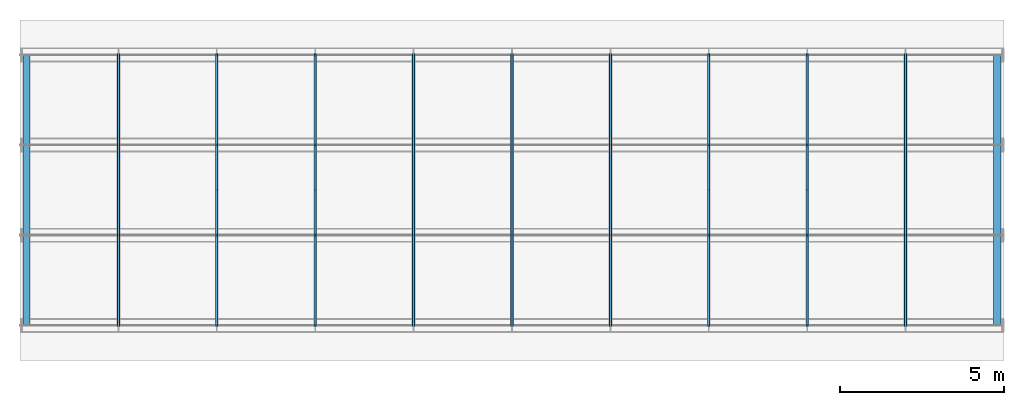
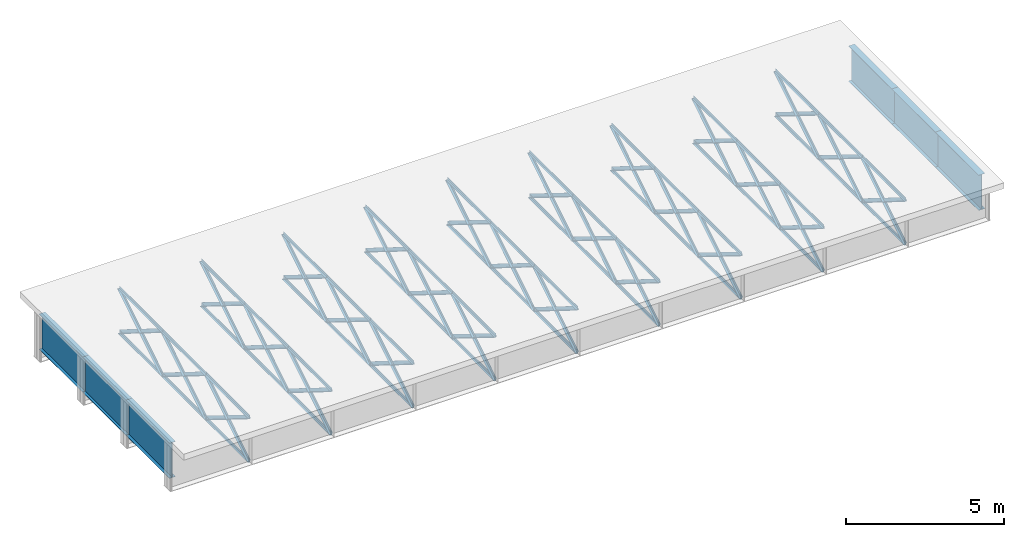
# One storey, part 1 of 11: 114 members.
"""IFC4 building model written with IfcOpenShell, lengths in metres."""

from ifc_helpers import new_model, si_unit, frame, origin, origin_with_axes, origin_2d_with_axis, place, context, subcontext, project, spatial, i_section, l_section, extrude, element, save


model = new_model("IFC4")

# Units and contexts
model_context = context("Model", 3, precision=1e-05, world=origin())
body_context = subcontext(model_context, "Body", "Model", "MODEL_VIEW")
ifc_project = project(units=[si_unit("LENGTHUNIT", "METRE"), si_unit("AREAUNIT", "SQUARE_METRE"), si_unit("VOLUMEUNIT", "CUBIC_METRE"), si_unit("PLANEANGLEUNIT", "RADIAN")], contexts=[model_context])

# Site, building, storey
site_placement = place(None, origin_with_axes())
site = spatial("IfcSite", under=ifc_project, at=site_placement, Name="Default Site")
building_placement = place(site_placement, origin_with_axes())
building = spatial("IfcBuilding", under=site, at=building_placement, Name="Bridge Structure")
storey_placement = place(building_placement, origin_with_axes())
storey = spatial("IfcBuildingStorey", under=building, at=storey_placement, Name="Superstructure")

# Members
for number, where, z_axis, x_axis, name in (
    (1, (0.2, -4.125, 0.171), (0.0, 1.0, 0.0), (-1.0, 0.0, 0.0), "End Diaphragm"),
    (2, (0.2, -1.375, 0.171), (0.0, 1.0, 0.0), (-1.0, 0.0, 0.0), "End Diaphragm"),
    (3, (0.2, 1.375, 0.171), (0.0, 1.0, 0.0), (-1.0, 0.0, 0.0), "End Diaphragm"),
):
    element("IfcMember", number, at=place(storey_placement, frame(where, z_axis=z_axis, x_axis=x_axis)), inside=storey, Name=name, context=body_context, shape_type="SweptSolid", body=[
        extrude(i_section(OverallWidth=0.225, OverallDepth=1.368, WebThickness=0.018000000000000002, FlangeThickness=0.012, at=origin_2d_with_axis()), origin_with_axes(), (0.0, 0.0, 1.0), 2.75),
    ])
for number, where, z_axis, x_axis, name in (
    (4, (3.0, -4.125, 0.855), (0.0, 0.8492104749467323, -0.5280545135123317), (-1.0, 0.0, 0.0), "Diagonal Brace"),
    (5, (3.0, -4.125, -0.855), (0.0, 0.8492104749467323, 0.5280545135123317), (-1.0, 0.0, 0.0), "Diagonal Brace"),
):
    element("IfcMember", number, at=place(storey_placement, frame(where, z_axis=z_axis, x_axis=x_axis)), inside=storey, Name=name, context=body_context, shape_type="SweptSolid", body=[
        extrude(l_section(Depth=0.128, Width=0.085, Thickness=0.008, at=origin_2d_with_axis()), origin_with_axes(), (0.0, 0.0, 1.0), 3.2383020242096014),
    ])
for number, where, z_axis, x_axis, name in (
    (6, (3.0, -4.125, -0.855), (0.0, 1.0, 0.0), (-1.0, 0.0, 0.0), "Bottom Chord"),
    (7, (3.0, -4.125, 0.855), (0.0, 1.0, 0.0), (-1.0, 0.0, 0.0), "Top Chord"),
):
    element("IfcMember", number, at=place(storey_placement, frame(where, z_axis=z_axis, x_axis=x_axis)), inside=storey, Name=name, context=body_context, shape_type="SweptSolid", body=[
        extrude(l_section(Depth=0.111, Width=0.068, Thickness=0.008, at=origin_2d_with_axis()), origin_with_axes(), (0.0, 0.0, 1.0), 2.75),
    ])
for number, where, z_axis, x_axis, name in (
    (8, (3.0, -1.375, 0.855), (0.0, 0.8492104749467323, -0.5280545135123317), (-1.0, 0.0, 0.0), "Diagonal Brace"),
    (9, (3.0, -1.375, -0.855), (0.0, 0.8492104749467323, 0.5280545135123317), (-1.0, 0.0, 0.0), "Diagonal Brace"),
):
    element("IfcMember", number, at=place(storey_placement, frame(where, z_axis=z_axis, x_axis=x_axis)), inside=storey, Name=name, context=body_context, shape_type="SweptSolid", body=[
        extrude(l_section(Depth=0.128, Width=0.085, Thickness=0.008, at=origin_2d_with_axis()), origin_with_axes(), (0.0, 0.0, 1.0), 3.2383020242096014),
    ])
for number, where, z_axis, x_axis, name in (
    (10, (3.0, -1.375, -0.855), (0.0, 1.0, 0.0), (-1.0, 0.0, 0.0), "Bottom Chord"),
    (11, (3.0, -1.375, 0.855), (0.0, 1.0, 0.0), (-1.0, 0.0, 0.0), "Top Chord"),
):
    element("IfcMember", number, at=place(storey_placement, frame(where, z_axis=z_axis, x_axis=x_axis)), inside=storey, Name=name, context=body_context, shape_type="SweptSolid", body=[
        extrude(l_section(Depth=0.111, Width=0.068, Thickness=0.008, at=origin_2d_with_axis()), origin_with_axes(), (0.0, 0.0, 1.0), 2.75),
    ])
for number, where, z_axis, x_axis, name in (
    (12, (3.0, 1.375, 0.855), (0.0, 0.8492104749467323, -0.5280545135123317), (-1.0, 0.0, 0.0), "Diagonal Brace"),
    (13, (3.0, 1.375, -0.855), (0.0, 0.8492104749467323, 0.5280545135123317), (-1.0, 0.0, 0.0), "Diagonal Brace"),
):
    element("IfcMember", number, at=place(storey_placement, frame(where, z_axis=z_axis, x_axis=x_axis)), inside=storey, Name=name, context=body_context, shape_type="SweptSolid", body=[
        extrude(l_section(Depth=0.128, Width=0.085, Thickness=0.008, at=origin_2d_with_axis()), origin_with_axes(), (0.0, 0.0, 1.0), 3.2383020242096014),
    ])
for number, where, z_axis, x_axis, name in (
    (14, (3.0, 1.375, -0.855), (0.0, 1.0, 0.0), (-1.0, 0.0, 0.0), "Bottom Chord"),
    (15, (3.0, 1.375, 0.855), (0.0, 1.0, 0.0), (-1.0, 0.0, 0.0), "Top Chord"),
):
    element("IfcMember", number, at=place(storey_placement, frame(where, z_axis=z_axis, x_axis=x_axis)), inside=storey, Name=name, context=body_context, shape_type="SweptSolid", body=[
        extrude(l_section(Depth=0.111, Width=0.068, Thickness=0.008, at=origin_2d_with_axis()), origin_with_axes(), (0.0, 0.0, 1.0), 2.75),
    ])
for number, where, z_axis, x_axis, name in (
    (16, (6.0, -4.125, 0.855), (0.0, 0.8492104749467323, -0.5280545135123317), (-1.0, 0.0, 0.0), "Diagonal Brace"),
    (17, (6.0, -4.125, -0.855), (0.0, 0.8492104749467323, 0.5280545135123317), (-1.0, 0.0, 0.0), "Diagonal Brace"),
):
    element("IfcMember", number, at=place(storey_placement, frame(where, z_axis=z_axis, x_axis=x_axis)), inside=storey, Name=name, context=body_context, shape_type="SweptSolid", body=[
        extrude(l_section(Depth=0.128, Width=0.085, Thickness=0.008, at=origin_2d_with_axis()), origin_with_axes(), (0.0, 0.0, 1.0), 3.2383020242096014),
    ])
for number, where, z_axis, x_axis, name in (
    (18, (6.0, -4.125, -0.855), (0.0, 1.0, 0.0), (-1.0, 0.0, 0.0), "Bottom Chord"),
    (19, (6.0, -4.125, 0.855), (0.0, 1.0, 0.0), (-1.0, 0.0, 0.0), "Top Chord"),
):
    element("IfcMember", number, at=place(storey_placement, frame(where, z_axis=z_axis, x_axis=x_axis)), inside=storey, Name=name, context=body_context, shape_type="SweptSolid", body=[
        extrude(l_section(Depth=0.111, Width=0.068, Thickness=0.008, at=origin_2d_with_axis()), origin_with_axes(), (0.0, 0.0, 1.0), 2.75),
    ])
for number, where, z_axis, x_axis, name in (
    (20, (6.0, -1.375, 0.855), (0.0, 0.8492104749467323, -0.5280545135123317), (-1.0, 0.0, 0.0), "Diagonal Brace"),
    (21, (6.0, -1.375, -0.855), (0.0, 0.8492104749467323, 0.5280545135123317), (-1.0, 0.0, 0.0), "Diagonal Brace"),
):
    element("IfcMember", number, at=place(storey_placement, frame(where, z_axis=z_axis, x_axis=x_axis)), inside=storey, Name=name, context=body_context, shape_type="SweptSolid", body=[
        extrude(l_section(Depth=0.128, Width=0.085, Thickness=0.008, at=origin_2d_with_axis()), origin_with_axes(), (0.0, 0.0, 1.0), 3.2383020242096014),
    ])
for number, where, z_axis, x_axis, name in (
    (22, (6.0, -1.375, -0.855), (0.0, 1.0, 0.0), (-1.0, 0.0, 0.0), "Bottom Chord"),
    (23, (6.0, -1.375, 0.855), (0.0, 1.0, 0.0), (-1.0, 0.0, 0.0), "Top Chord"),
):
    element("IfcMember", number, at=place(storey_placement, frame(where, z_axis=z_axis, x_axis=x_axis)), inside=storey, Name=name, context=body_context, shape_type="SweptSolid", body=[
        extrude(l_section(Depth=0.111, Width=0.068, Thickness=0.008, at=origin_2d_with_axis()), origin_with_axes(), (0.0, 0.0, 1.0), 2.75),
    ])
for number, where, z_axis, x_axis, name in (
    (24, (6.0, 1.375, 0.855), (0.0, 0.8492104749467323, -0.5280545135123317), (-1.0, 0.0, 0.0), "Diagonal Brace"),
    (25, (6.0, 1.375, -0.855), (0.0, 0.8492104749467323, 0.5280545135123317), (-1.0, 0.0, 0.0), "Diagonal Brace"),
):
    element("IfcMember", number, at=place(storey_placement, frame(where, z_axis=z_axis, x_axis=x_axis)), inside=storey, Name=name, context=body_context, shape_type="SweptSolid", body=[
        extrude(l_section(Depth=0.128, Width=0.085, Thickness=0.008, at=origin_2d_with_axis()), origin_with_axes(), (0.0, 0.0, 1.0), 3.2383020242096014),
    ])
for number, where, z_axis, x_axis, name in (
    (26, (6.0, 1.375, -0.855), (0.0, 1.0, 0.0), (-1.0, 0.0, 0.0), "Bottom Chord"),
    (27, (6.0, 1.375, 0.855), (0.0, 1.0, 0.0), (-1.0, 0.0, 0.0), "Top Chord"),
):
    element("IfcMember", number, at=place(storey_placement, frame(where, z_axis=z_axis, x_axis=x_axis)), inside=storey, Name=name, context=body_context, shape_type="SweptSolid", body=[
        extrude(l_section(Depth=0.111, Width=0.068, Thickness=0.008, at=origin_2d_with_axis()), origin_with_axes(), (0.0, 0.0, 1.0), 2.75),
    ])
for number, where, z_axis, x_axis, name in (
    (28, (9.0, -4.125, 0.855), (0.0, 0.8492104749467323, -0.5280545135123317), (-1.0, 0.0, 0.0), "Diagonal Brace"),
    (29, (9.0, -4.125, -0.855), (0.0, 0.8492104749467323, 0.5280545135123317), (-1.0, 0.0, 0.0), "Diagonal Brace"),
):
    element("IfcMember", number, at=place(storey_placement, frame(where, z_axis=z_axis, x_axis=x_axis)), inside=storey, Name=name, context=body_context, shape_type="SweptSolid", body=[
        extrude(l_section(Depth=0.128, Width=0.085, Thickness=0.008, at=origin_2d_with_axis()), origin_with_axes(), (0.0, 0.0, 1.0), 3.2383020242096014),
    ])
for number, where, z_axis, x_axis, name in (
    (30, (9.0, -4.125, -0.855), (0.0, 1.0, 0.0), (-1.0, 0.0, 0.0), "Bottom Chord"),
    (31, (9.0, -4.125, 0.855), (0.0, 1.0, 0.0), (-1.0, 0.0, 0.0), "Top Chord"),
):
    element("IfcMember", number, at=place(storey_placement, frame(where, z_axis=z_axis, x_axis=x_axis)), inside=storey, Name=name, context=body_context, shape_type="SweptSolid", body=[
        extrude(l_section(Depth=0.111, Width=0.068, Thickness=0.008, at=origin_2d_with_axis()), origin_with_axes(), (0.0, 0.0, 1.0), 2.75),
    ])
for number, where, z_axis, x_axis, name in (
    (32, (9.0, -1.375, 0.855), (0.0, 0.8492104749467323, -0.5280545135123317), (-1.0, 0.0, 0.0), "Diagonal Brace"),
    (33, (9.0, -1.375, -0.855), (0.0, 0.8492104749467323, 0.5280545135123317), (-1.0, 0.0, 0.0), "Diagonal Brace"),
):
    element("IfcMember", number, at=place(storey_placement, frame(where, z_axis=z_axis, x_axis=x_axis)), inside=storey, Name=name, context=body_context, shape_type="SweptSolid", body=[
        extrude(l_section(Depth=0.128, Width=0.085, Thickness=0.008, at=origin_2d_with_axis()), origin_with_axes(), (0.0, 0.0, 1.0), 3.2383020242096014),
    ])
for number, where, z_axis, x_axis, name in (
    (34, (9.0, -1.375, -0.855), (0.0, 1.0, 0.0), (-1.0, 0.0, 0.0), "Bottom Chord"),
    (35, (9.0, -1.375, 0.855), (0.0, 1.0, 0.0), (-1.0, 0.0, 0.0), "Top Chord"),
):
    element("IfcMember", number, at=place(storey_placement, frame(where, z_axis=z_axis, x_axis=x_axis)), inside=storey, Name=name, context=body_context, shape_type="SweptSolid", body=[
        extrude(l_section(Depth=0.111, Width=0.068, Thickness=0.008, at=origin_2d_with_axis()), origin_with_axes(), (0.0, 0.0, 1.0), 2.75),
    ])
for number, where, z_axis, x_axis, name in (
    (36, (9.0, 1.375, 0.855), (0.0, 0.8492104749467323, -0.5280545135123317), (-1.0, 0.0, 0.0), "Diagonal Brace"),
    (37, (9.0, 1.375, -0.855), (0.0, 0.8492104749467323, 0.5280545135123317), (-1.0, 0.0, 0.0), "Diagonal Brace"),
):
    element("IfcMember", number, at=place(storey_placement, frame(where, z_axis=z_axis, x_axis=x_axis)), inside=storey, Name=name, context=body_context, shape_type="SweptSolid", body=[
        extrude(l_section(Depth=0.128, Width=0.085, Thickness=0.008, at=origin_2d_with_axis()), origin_with_axes(), (0.0, 0.0, 1.0), 3.2383020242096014),
    ])
for number, where, z_axis, x_axis, name in (
    (38, (9.0, 1.375, -0.855), (0.0, 1.0, 0.0), (-1.0, 0.0, 0.0), "Bottom Chord"),
    (39, (9.0, 1.375, 0.855), (0.0, 1.0, 0.0), (-1.0, 0.0, 0.0), "Top Chord"),
):
    element("IfcMember", number, at=place(storey_placement, frame(where, z_axis=z_axis, x_axis=x_axis)), inside=storey, Name=name, context=body_context, shape_type="SweptSolid", body=[
        extrude(l_section(Depth=0.111, Width=0.068, Thickness=0.008, at=origin_2d_with_axis()), origin_with_axes(), (0.0, 0.0, 1.0), 2.75),
    ])
for number, where, z_axis, x_axis, name in (
    (40, (12.0, -4.125, 0.855), (0.0, 0.8492104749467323, -0.5280545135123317), (-1.0, 0.0, 0.0), "Diagonal Brace"),
    (41, (12.0, -4.125, -0.855), (0.0, 0.8492104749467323, 0.5280545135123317), (-1.0, 0.0, 0.0), "Diagonal Brace"),
):
    element("IfcMember", number, at=place(storey_placement, frame(where, z_axis=z_axis, x_axis=x_axis)), inside=storey, Name=name, context=body_context, shape_type="SweptSolid", body=[
        extrude(l_section(Depth=0.128, Width=0.085, Thickness=0.008, at=origin_2d_with_axis()), origin_with_axes(), (0.0, 0.0, 1.0), 3.2383020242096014),
    ])
for number, where, z_axis, x_axis, name in (
    (42, (12.0, -4.125, -0.855), (0.0, 1.0, 0.0), (-1.0, 0.0, 0.0), "Bottom Chord"),
    (43, (12.0, -4.125, 0.855), (0.0, 1.0, 0.0), (-1.0, 0.0, 0.0), "Top Chord"),
):
    element("IfcMember", number, at=place(storey_placement, frame(where, z_axis=z_axis, x_axis=x_axis)), inside=storey, Name=name, context=body_context, shape_type="SweptSolid", body=[
        extrude(l_section(Depth=0.111, Width=0.068, Thickness=0.008, at=origin_2d_with_axis()), origin_with_axes(), (0.0, 0.0, 1.0), 2.75),
    ])
for number, where, z_axis, x_axis, name in (
    (44, (12.0, -1.375, 0.855), (0.0, 0.8492104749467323, -0.5280545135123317), (-1.0, 0.0, 0.0), "Diagonal Brace"),
    (45, (12.0, -1.375, -0.855), (0.0, 0.8492104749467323, 0.5280545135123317), (-1.0, 0.0, 0.0), "Diagonal Brace"),
):
    element("IfcMember", number, at=place(storey_placement, frame(where, z_axis=z_axis, x_axis=x_axis)), inside=storey, Name=name, context=body_context, shape_type="SweptSolid", body=[
        extrude(l_section(Depth=0.128, Width=0.085, Thickness=0.008, at=origin_2d_with_axis()), origin_with_axes(), (0.0, 0.0, 1.0), 3.2383020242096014),
    ])
for number, where, z_axis, x_axis, name in (
    (46, (12.0, -1.375, -0.855), (0.0, 1.0, 0.0), (-1.0, 0.0, 0.0), "Bottom Chord"),
    (47, (12.0, -1.375, 0.855), (0.0, 1.0, 0.0), (-1.0, 0.0, 0.0), "Top Chord"),
):
    element("IfcMember", number, at=place(storey_placement, frame(where, z_axis=z_axis, x_axis=x_axis)), inside=storey, Name=name, context=body_context, shape_type="SweptSolid", body=[
        extrude(l_section(Depth=0.111, Width=0.068, Thickness=0.008, at=origin_2d_with_axis()), origin_with_axes(), (0.0, 0.0, 1.0), 2.75),
    ])
for number, where, z_axis, x_axis, name in (
    (48, (12.0, 1.375, 0.855), (0.0, 0.8492104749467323, -0.5280545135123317), (-1.0, 0.0, 0.0), "Diagonal Brace"),
    (49, (12.0, 1.375, -0.855), (0.0, 0.8492104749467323, 0.5280545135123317), (-1.0, 0.0, 0.0), "Diagonal Brace"),
):
    element("IfcMember", number, at=place(storey_placement, frame(where, z_axis=z_axis, x_axis=x_axis)), inside=storey, Name=name, context=body_context, shape_type="SweptSolid", body=[
        extrude(l_section(Depth=0.128, Width=0.085, Thickness=0.008, at=origin_2d_with_axis()), origin_with_axes(), (0.0, 0.0, 1.0), 3.2383020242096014),
    ])
for number, where, z_axis, x_axis, name in (
    (50, (12.0, 1.375, -0.855), (0.0, 1.0, 0.0), (-1.0, 0.0, 0.0), "Bottom Chord"),
    (51, (12.0, 1.375, 0.855), (0.0, 1.0, 0.0), (-1.0, 0.0, 0.0), "Top Chord"),
):
    element("IfcMember", number, at=place(storey_placement, frame(where, z_axis=z_axis, x_axis=x_axis)), inside=storey, Name=name, context=body_context, shape_type="SweptSolid", body=[
        extrude(l_section(Depth=0.111, Width=0.068, Thickness=0.008, at=origin_2d_with_axis()), origin_with_axes(), (0.0, 0.0, 1.0), 2.75),
    ])
for number, where, z_axis, x_axis, name in (
    (52, (15.0, -4.125, 0.855), (0.0, 0.8492104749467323, -0.5280545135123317), (-1.0, 0.0, 0.0), "Diagonal Brace"),
    (53, (15.0, -4.125, -0.855), (0.0, 0.8492104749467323, 0.5280545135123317), (-1.0, 0.0, 0.0), "Diagonal Brace"),
):
    element("IfcMember", number, at=place(storey_placement, frame(where, z_axis=z_axis, x_axis=x_axis)), inside=storey, Name=name, context=body_context, shape_type="SweptSolid", body=[
        extrude(l_section(Depth=0.128, Width=0.085, Thickness=0.008, at=origin_2d_with_axis()), origin_with_axes(), (0.0, 0.0, 1.0), 3.2383020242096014),
    ])
for number, where, z_axis, x_axis, name in (
    (54, (15.0, -4.125, -0.855), (0.0, 1.0, 0.0), (-1.0, 0.0, 0.0), "Bottom Chord"),
    (55, (15.0, -4.125, 0.855), (0.0, 1.0, 0.0), (-1.0, 0.0, 0.0), "Top Chord"),
):
    element("IfcMember", number, at=place(storey_placement, frame(where, z_axis=z_axis, x_axis=x_axis)), inside=storey, Name=name, context=body_context, shape_type="SweptSolid", body=[
        extrude(l_section(Depth=0.111, Width=0.068, Thickness=0.008, at=origin_2d_with_axis()), origin_with_axes(), (0.0, 0.0, 1.0), 2.75),
    ])
for number, where, z_axis, x_axis, name in (
    (56, (15.0, -1.375, 0.855), (0.0, 0.8492104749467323, -0.5280545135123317), (-1.0, 0.0, 0.0), "Diagonal Brace"),
    (57, (15.0, -1.375, -0.855), (0.0, 0.8492104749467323, 0.5280545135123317), (-1.0, 0.0, 0.0), "Diagonal Brace"),
):
    element("IfcMember", number, at=place(storey_placement, frame(where, z_axis=z_axis, x_axis=x_axis)), inside=storey, Name=name, context=body_context, shape_type="SweptSolid", body=[
        extrude(l_section(Depth=0.128, Width=0.085, Thickness=0.008, at=origin_2d_with_axis()), origin_with_axes(), (0.0, 0.0, 1.0), 3.2383020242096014),
    ])
for number, where, z_axis, x_axis, name in (
    (58, (15.0, -1.375, -0.855), (0.0, 1.0, 0.0), (-1.0, 0.0, 0.0), "Bottom Chord"),
    (59, (15.0, -1.375, 0.855), (0.0, 1.0, 0.0), (-1.0, 0.0, 0.0), "Top Chord"),
):
    element("IfcMember", number, at=place(storey_placement, frame(where, z_axis=z_axis, x_axis=x_axis)), inside=storey, Name=name, context=body_context, shape_type="SweptSolid", body=[
        extrude(l_section(Depth=0.111, Width=0.068, Thickness=0.008, at=origin_2d_with_axis()), origin_with_axes(), (0.0, 0.0, 1.0), 2.75),
    ])
for number, where, z_axis, x_axis, name in (
    (60, (15.0, 1.375, 0.855), (0.0, 0.8492104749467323, -0.5280545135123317), (-1.0, 0.0, 0.0), "Diagonal Brace"),
    (61, (15.0, 1.375, -0.855), (0.0, 0.8492104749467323, 0.5280545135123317), (-1.0, 0.0, 0.0), "Diagonal Brace"),
):
    element("IfcMember", number, at=place(storey_placement, frame(where, z_axis=z_axis, x_axis=x_axis)), inside=storey, Name=name, context=body_context, shape_type="SweptSolid", body=[
        extrude(l_section(Depth=0.128, Width=0.085, Thickness=0.008, at=origin_2d_with_axis()), origin_with_axes(), (0.0, 0.0, 1.0), 3.2383020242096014),
    ])
for number, where, z_axis, x_axis, name in (
    (62, (15.0, 1.375, -0.855), (0.0, 1.0, 0.0), (-1.0, 0.0, 0.0), "Bottom Chord"),
    (63, (15.0, 1.375, 0.855), (0.0, 1.0, 0.0), (-1.0, 0.0, 0.0), "Top Chord"),
):
    element("IfcMember", number, at=place(storey_placement, frame(where, z_axis=z_axis, x_axis=x_axis)), inside=storey, Name=name, context=body_context, shape_type="SweptSolid", body=[
        extrude(l_section(Depth=0.111, Width=0.068, Thickness=0.008, at=origin_2d_with_axis()), origin_with_axes(), (0.0, 0.0, 1.0), 2.75),
    ])
for number, where, z_axis, x_axis, name in (
    (64, (18.0, -4.125, 0.855), (0.0, 0.8492104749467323, -0.5280545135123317), (-1.0, 0.0, 0.0), "Diagonal Brace"),
    (65, (18.0, -4.125, -0.855), (0.0, 0.8492104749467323, 0.5280545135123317), (-1.0, 0.0, 0.0), "Diagonal Brace"),
):
    element("IfcMember", number, at=place(storey_placement, frame(where, z_axis=z_axis, x_axis=x_axis)), inside=storey, Name=name, context=body_context, shape_type="SweptSolid", body=[
        extrude(l_section(Depth=0.128, Width=0.085, Thickness=0.008, at=origin_2d_with_axis()), origin_with_axes(), (0.0, 0.0, 1.0), 3.2383020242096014),
    ])
for number, where, z_axis, x_axis, name in (
    (66, (18.0, -4.125, -0.855), (0.0, 1.0, 0.0), (-1.0, 0.0, 0.0), "Bottom Chord"),
    (67, (18.0, -4.125, 0.855), (0.0, 1.0, 0.0), (-1.0, 0.0, 0.0), "Top Chord"),
):
    element("IfcMember", number, at=place(storey_placement, frame(where, z_axis=z_axis, x_axis=x_axis)), inside=storey, Name=name, context=body_context, shape_type="SweptSolid", body=[
        extrude(l_section(Depth=0.111, Width=0.068, Thickness=0.008, at=origin_2d_with_axis()), origin_with_axes(), (0.0, 0.0, 1.0), 2.75),
    ])
for number, where, z_axis, x_axis, name in (
    (68, (18.0, -1.375, 0.855), (0.0, 0.8492104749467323, -0.5280545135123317), (-1.0, 0.0, 0.0), "Diagonal Brace"),
    (69, (18.0, -1.375, -0.855), (0.0, 0.8492104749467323, 0.5280545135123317), (-1.0, 0.0, 0.0), "Diagonal Brace"),
):
    element("IfcMember", number, at=place(storey_placement, frame(where, z_axis=z_axis, x_axis=x_axis)), inside=storey, Name=name, context=body_context, shape_type="SweptSolid", body=[
        extrude(l_section(Depth=0.128, Width=0.085, Thickness=0.008, at=origin_2d_with_axis()), origin_with_axes(), (0.0, 0.0, 1.0), 3.2383020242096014),
    ])
for number, where, z_axis, x_axis, name in (
    (70, (18.0, -1.375, -0.855), (0.0, 1.0, 0.0), (-1.0, 0.0, 0.0), "Bottom Chord"),
    (71, (18.0, -1.375, 0.855), (0.0, 1.0, 0.0), (-1.0, 0.0, 0.0), "Top Chord"),
):
    element("IfcMember", number, at=place(storey_placement, frame(where, z_axis=z_axis, x_axis=x_axis)), inside=storey, Name=name, context=body_context, shape_type="SweptSolid", body=[
        extrude(l_section(Depth=0.111, Width=0.068, Thickness=0.008, at=origin_2d_with_axis()), origin_with_axes(), (0.0, 0.0, 1.0), 2.75),
    ])
for number, where, z_axis, x_axis, name in (
    (72, (18.0, 1.375, 0.855), (0.0, 0.8492104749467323, -0.5280545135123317), (-1.0, 0.0, 0.0), "Diagonal Brace"),
    (73, (18.0, 1.375, -0.855), (0.0, 0.8492104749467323, 0.5280545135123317), (-1.0, 0.0, 0.0), "Diagonal Brace"),
):
    element("IfcMember", number, at=place(storey_placement, frame(where, z_axis=z_axis, x_axis=x_axis)), inside=storey, Name=name, context=body_context, shape_type="SweptSolid", body=[
        extrude(l_section(Depth=0.128, Width=0.085, Thickness=0.008, at=origin_2d_with_axis()), origin_with_axes(), (0.0, 0.0, 1.0), 3.2383020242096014),
    ])
for number, where, z_axis, x_axis, name in (
    (74, (18.0, 1.375, -0.855), (0.0, 1.0, 0.0), (-1.0, 0.0, 0.0), "Bottom Chord"),
    (75, (18.0, 1.375, 0.855), (0.0, 1.0, 0.0), (-1.0, 0.0, 0.0), "Top Chord"),
):
    element("IfcMember", number, at=place(storey_placement, frame(where, z_axis=z_axis, x_axis=x_axis)), inside=storey, Name=name, context=body_context, shape_type="SweptSolid", body=[
        extrude(l_section(Depth=0.111, Width=0.068, Thickness=0.008, at=origin_2d_with_axis()), origin_with_axes(), (0.0, 0.0, 1.0), 2.75),
    ])
for number, where, z_axis, x_axis, name in (
    (76, (21.0, -4.125, 0.855), (0.0, 0.8492104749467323, -0.5280545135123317), (-1.0, 0.0, 0.0), "Diagonal Brace"),
    (77, (21.0, -4.125, -0.855), (0.0, 0.8492104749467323, 0.5280545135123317), (-1.0, 0.0, 0.0), "Diagonal Brace"),
):
    element("IfcMember", number, at=place(storey_placement, frame(where, z_axis=z_axis, x_axis=x_axis)), inside=storey, Name=name, context=body_context, shape_type="SweptSolid", body=[
        extrude(l_section(Depth=0.128, Width=0.085, Thickness=0.008, at=origin_2d_with_axis()), origin_with_axes(), (0.0, 0.0, 1.0), 3.2383020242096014),
    ])
for number, where, z_axis, x_axis, name in (
    (78, (21.0, -4.125, -0.855), (0.0, 1.0, 0.0), (-1.0, 0.0, 0.0), "Bottom Chord"),
    (79, (21.0, -4.125, 0.855), (0.0, 1.0, 0.0), (-1.0, 0.0, 0.0), "Top Chord"),
):
    element("IfcMember", number, at=place(storey_placement, frame(where, z_axis=z_axis, x_axis=x_axis)), inside=storey, Name=name, context=body_context, shape_type="SweptSolid", body=[
        extrude(l_section(Depth=0.111, Width=0.068, Thickness=0.008, at=origin_2d_with_axis()), origin_with_axes(), (0.0, 0.0, 1.0), 2.75),
    ])
for number, where, z_axis, x_axis, name in (
    (80, (21.0, -1.375, 0.855), (0.0, 0.8492104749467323, -0.5280545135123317), (-1.0, 0.0, 0.0), "Diagonal Brace"),
    (81, (21.0, -1.375, -0.855), (0.0, 0.8492104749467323, 0.5280545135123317), (-1.0, 0.0, 0.0), "Diagonal Brace"),
):
    element("IfcMember", number, at=place(storey_placement, frame(where, z_axis=z_axis, x_axis=x_axis)), inside=storey, Name=name, context=body_context, shape_type="SweptSolid", body=[
        extrude(l_section(Depth=0.128, Width=0.085, Thickness=0.008, at=origin_2d_with_axis()), origin_with_axes(), (0.0, 0.0, 1.0), 3.2383020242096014),
    ])
for number, where, z_axis, x_axis, name in (
    (82, (21.0, -1.375, -0.855), (0.0, 1.0, 0.0), (-1.0, 0.0, 0.0), "Bottom Chord"),
    (83, (21.0, -1.375, 0.855), (0.0, 1.0, 0.0), (-1.0, 0.0, 0.0), "Top Chord"),
):
    element("IfcMember", number, at=place(storey_placement, frame(where, z_axis=z_axis, x_axis=x_axis)), inside=storey, Name=name, context=body_context, shape_type="SweptSolid", body=[
        extrude(l_section(Depth=0.111, Width=0.068, Thickness=0.008, at=origin_2d_with_axis()), origin_with_axes(), (0.0, 0.0, 1.0), 2.75),
    ])
for number, where, z_axis, x_axis, name in (
    (84, (21.0, 1.375, 0.855), (0.0, 0.8492104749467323, -0.5280545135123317), (-1.0, 0.0, 0.0), "Diagonal Brace"),
    (85, (21.0, 1.375, -0.855), (0.0, 0.8492104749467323, 0.5280545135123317), (-1.0, 0.0, 0.0), "Diagonal Brace"),
):
    element("IfcMember", number, at=place(storey_placement, frame(where, z_axis=z_axis, x_axis=x_axis)), inside=storey, Name=name, context=body_context, shape_type="SweptSolid", body=[
        extrude(l_section(Depth=0.128, Width=0.085, Thickness=0.008, at=origin_2d_with_axis()), origin_with_axes(), (0.0, 0.0, 1.0), 3.2383020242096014),
    ])
for number, where, z_axis, x_axis, name in (
    (86, (21.0, 1.375, -0.855), (0.0, 1.0, 0.0), (-1.0, 0.0, 0.0), "Bottom Chord"),
    (87, (21.0, 1.375, 0.855), (0.0, 1.0, 0.0), (-1.0, 0.0, 0.0), "Top Chord"),
):
    element("IfcMember", number, at=place(storey_placement, frame(where, z_axis=z_axis, x_axis=x_axis)), inside=storey, Name=name, context=body_context, shape_type="SweptSolid", body=[
        extrude(l_section(Depth=0.111, Width=0.068, Thickness=0.008, at=origin_2d_with_axis()), origin_with_axes(), (0.0, 0.0, 1.0), 2.75),
    ])
for number, where, z_axis, x_axis, name in (
    (88, (24.0, -4.125, 0.855), (0.0, 0.8492104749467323, -0.5280545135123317), (-1.0, 0.0, 0.0), "Diagonal Brace"),
    (89, (24.0, -4.125, -0.855), (0.0, 0.8492104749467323, 0.5280545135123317), (-1.0, 0.0, 0.0), "Diagonal Brace"),
):
    element("IfcMember", number, at=place(storey_placement, frame(where, z_axis=z_axis, x_axis=x_axis)), inside=storey, Name=name, context=body_context, shape_type="SweptSolid", body=[
        extrude(l_section(Depth=0.128, Width=0.085, Thickness=0.008, at=origin_2d_with_axis()), origin_with_axes(), (0.0, 0.0, 1.0), 3.2383020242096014),
    ])
for number, where, z_axis, x_axis, name in (
    (90, (24.0, -4.125, -0.855), (0.0, 1.0, 0.0), (-1.0, 0.0, 0.0), "Bottom Chord"),
    (91, (24.0, -4.125, 0.855), (0.0, 1.0, 0.0), (-1.0, 0.0, 0.0), "Top Chord"),
):
    element("IfcMember", number, at=place(storey_placement, frame(where, z_axis=z_axis, x_axis=x_axis)), inside=storey, Name=name, context=body_context, shape_type="SweptSolid", body=[
        extrude(l_section(Depth=0.111, Width=0.068, Thickness=0.008, at=origin_2d_with_axis()), origin_with_axes(), (0.0, 0.0, 1.0), 2.75),
    ])
for number, where, z_axis, x_axis, name in (
    (92, (24.0, -1.375, 0.855), (0.0, 0.8492104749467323, -0.5280545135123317), (-1.0, 0.0, 0.0), "Diagonal Brace"),
    (93, (24.0, -1.375, -0.855), (0.0, 0.8492104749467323, 0.5280545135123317), (-1.0, 0.0, 0.0), "Diagonal Brace"),
):
    element("IfcMember", number, at=place(storey_placement, frame(where, z_axis=z_axis, x_axis=x_axis)), inside=storey, Name=name, context=body_context, shape_type="SweptSolid", body=[
        extrude(l_section(Depth=0.128, Width=0.085, Thickness=0.008, at=origin_2d_with_axis()), origin_with_axes(), (0.0, 0.0, 1.0), 3.2383020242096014),
    ])
for number, where, z_axis, x_axis, name in (
    (94, (24.0, -1.375, -0.855), (0.0, 1.0, 0.0), (-1.0, 0.0, 0.0), "Bottom Chord"),
    (95, (24.0, -1.375, 0.855), (0.0, 1.0, 0.0), (-1.0, 0.0, 0.0), "Top Chord"),
):
    element("IfcMember", number, at=place(storey_placement, frame(where, z_axis=z_axis, x_axis=x_axis)), inside=storey, Name=name, context=body_context, shape_type="SweptSolid", body=[
        extrude(l_section(Depth=0.111, Width=0.068, Thickness=0.008, at=origin_2d_with_axis()), origin_with_axes(), (0.0, 0.0, 1.0), 2.75),
    ])
for number, where, z_axis, x_axis, name in (
    (96, (24.0, 1.375, 0.855), (0.0, 0.8492104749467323, -0.5280545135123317), (-1.0, 0.0, 0.0), "Diagonal Brace"),
    (97, (24.0, 1.375, -0.855), (0.0, 0.8492104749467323, 0.5280545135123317), (-1.0, 0.0, 0.0), "Diagonal Brace"),
):
    element("IfcMember", number, at=place(storey_placement, frame(where, z_axis=z_axis, x_axis=x_axis)), inside=storey, Name=name, context=body_context, shape_type="SweptSolid", body=[
        extrude(l_section(Depth=0.128, Width=0.085, Thickness=0.008, at=origin_2d_with_axis()), origin_with_axes(), (0.0, 0.0, 1.0), 3.2383020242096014),
    ])
for number, where, z_axis, x_axis, name in (
    (98, (24.0, 1.375, -0.855), (0.0, 1.0, 0.0), (-1.0, 0.0, 0.0), "Bottom Chord"),
    (99, (24.0, 1.375, 0.855), (0.0, 1.0, 0.0), (-1.0, 0.0, 0.0), "Top Chord"),
):
    element("IfcMember", number, at=place(storey_placement, frame(where, z_axis=z_axis, x_axis=x_axis)), inside=storey, Name=name, context=body_context, shape_type="SweptSolid", body=[
        extrude(l_section(Depth=0.111, Width=0.068, Thickness=0.008, at=origin_2d_with_axis()), origin_with_axes(), (0.0, 0.0, 1.0), 2.75),
    ])
for number, where, z_axis, x_axis, name in (
    (100, (27.0, -4.125, 0.855), (0.0, 0.8492104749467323, -0.5280545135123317), (-1.0, 0.0, 0.0), "Diagonal Brace"),
    (101, (27.0, -4.125, -0.855), (0.0, 0.8492104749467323, 0.5280545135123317), (-1.0, 0.0, 0.0), "Diagonal Brace"),
):
    element("IfcMember", number, at=place(storey_placement, frame(where, z_axis=z_axis, x_axis=x_axis)), inside=storey, Name=name, context=body_context, shape_type="SweptSolid", body=[
        extrude(l_section(Depth=0.128, Width=0.085, Thickness=0.008, at=origin_2d_with_axis()), origin_with_axes(), (0.0, 0.0, 1.0), 3.2383020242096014),
    ])
for number, where, z_axis, x_axis, name in (
    (102, (27.0, -4.125, -0.855), (0.0, 1.0, 0.0), (-1.0, 0.0, 0.0), "Bottom Chord"),
    (103, (27.0, -4.125, 0.855), (0.0, 1.0, 0.0), (-1.0, 0.0, 0.0), "Top Chord"),
):
    element("IfcMember", number, at=place(storey_placement, frame(where, z_axis=z_axis, x_axis=x_axis)), inside=storey, Name=name, context=body_context, shape_type="SweptSolid", body=[
        extrude(l_section(Depth=0.111, Width=0.068, Thickness=0.008, at=origin_2d_with_axis()), origin_with_axes(), (0.0, 0.0, 1.0), 2.75),
    ])
for number, where, z_axis, x_axis, name in (
    (104, (27.0, -1.375, 0.855), (0.0, 0.8492104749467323, -0.5280545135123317), (-1.0, 0.0, 0.0), "Diagonal Brace"),
    (105, (27.0, -1.375, -0.855), (0.0, 0.8492104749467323, 0.5280545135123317), (-1.0, 0.0, 0.0), "Diagonal Brace"),
):
    element("IfcMember", number, at=place(storey_placement, frame(where, z_axis=z_axis, x_axis=x_axis)), inside=storey, Name=name, context=body_context, shape_type="SweptSolid", body=[
        extrude(l_section(Depth=0.128, Width=0.085, Thickness=0.008, at=origin_2d_with_axis()), origin_with_axes(), (0.0, 0.0, 1.0), 3.2383020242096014),
    ])
for number, where, z_axis, x_axis, name in (
    (106, (27.0, -1.375, -0.855), (0.0, 1.0, 0.0), (-1.0, 0.0, 0.0), "Bottom Chord"),
    (107, (27.0, -1.375, 0.855), (0.0, 1.0, 0.0), (-1.0, 0.0, 0.0), "Top Chord"),
):
    element("IfcMember", number, at=place(storey_placement, frame(where, z_axis=z_axis, x_axis=x_axis)), inside=storey, Name=name, context=body_context, shape_type="SweptSolid", body=[
        extrude(l_section(Depth=0.111, Width=0.068, Thickness=0.008, at=origin_2d_with_axis()), origin_with_axes(), (0.0, 0.0, 1.0), 2.75),
    ])
for number, where, z_axis, x_axis, name in (
    (108, (27.0, 1.375, 0.855), (0.0, 0.8492104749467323, -0.5280545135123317), (-1.0, 0.0, 0.0), "Diagonal Brace"),
    (109, (27.0, 1.375, -0.855), (0.0, 0.8492104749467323, 0.5280545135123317), (-1.0, 0.0, 0.0), "Diagonal Brace"),
):
    element("IfcMember", number, at=place(storey_placement, frame(where, z_axis=z_axis, x_axis=x_axis)), inside=storey, Name=name, context=body_context, shape_type="SweptSolid", body=[
        extrude(l_section(Depth=0.128, Width=0.085, Thickness=0.008, at=origin_2d_with_axis()), origin_with_axes(), (0.0, 0.0, 1.0), 3.2383020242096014),
    ])
for number, where, z_axis, x_axis, name in (
    (110, (27.0, 1.375, -0.855), (0.0, 1.0, 0.0), (-1.0, 0.0, 0.0), "Bottom Chord"),
    (111, (27.0, 1.375, 0.855), (0.0, 1.0, 0.0), (-1.0, 0.0, 0.0), "Top Chord"),
):
    element("IfcMember", number, at=place(storey_placement, frame(where, z_axis=z_axis, x_axis=x_axis)), inside=storey, Name=name, context=body_context, shape_type="SweptSolid", body=[
        extrude(l_section(Depth=0.111, Width=0.068, Thickness=0.008, at=origin_2d_with_axis()), origin_with_axes(), (0.0, 0.0, 1.0), 2.75),
    ])
for number, where, z_axis, x_axis, name in (
    (112, (29.8, -4.125, 0.171), (0.0, 1.0, 0.0), (-1.0, 0.0, 0.0), "End Diaphragm"),
    (113, (29.8, -1.375, 0.171), (0.0, 1.0, 0.0), (-1.0, 0.0, 0.0), "End Diaphragm"),
    (114, (29.8, 1.375, 0.171), (0.0, 1.0, 0.0), (-1.0, 0.0, 0.0), "End Diaphragm"),
):
    element("IfcMember", number, at=place(storey_placement, frame(where, z_axis=z_axis, x_axis=x_axis)), inside=storey, Name=name, context=body_context, shape_type="SweptSolid", body=[
        extrude(i_section(OverallWidth=0.225, OverallDepth=1.368, WebThickness=0.018000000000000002, FlangeThickness=0.012, at=origin_2d_with_axis()), origin_with_axes(), (0.0, 0.0, 1.0), 2.75),
    ])

save(model, "model.ifc")
